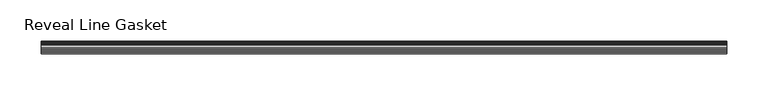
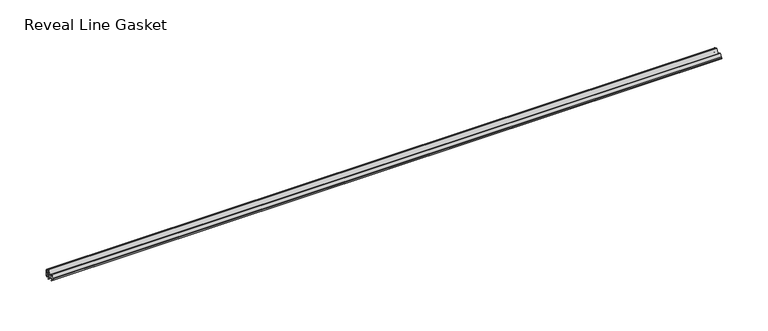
"""IFC4 building model written with IfcOpenShell, lengths in millimetres: proxy geometry, Accessories-Teknion-FHGR-AI_Healthcare-Reveal_Line_Gasket(Horizontal)-R2022 : Reveal Line Gasket."""

from ifc_helpers import new_model, si_unit, point, frame, frame_2d, origin, place, context, project, spatial, polyline, circle_curve, trimmed, segment, composite_curve, outline, extrude, source, transform, mapped, element, save


def reveal_line_gasket_ff10c470(model_context):
    return source(origin(), model_context, "Body", "SweptSolid", [
        extrude(outline(composite_curve([segment(polyline([(7.6326998, 1603.2), (7.6326998, 1597.2), (7.4091917, 1596.2445073), (6.8813059, 1595.3115316)]), True, "CONTINUOUS"), segment(trimmed(circle_curve(frame_2d((6.5243141, 1595.5135207)), 0.4101739), [point((6.8813059, 1595.3115316))], [point((6.1246704, 1595.6058653))], False, "CARTESIAN"), True, "CONTINUOUS"), segment(polyline([(6.1246704, 1595.6058653), (6.3626997, 1597.3020914), (6.3626997, 1599.3345473)]), True, "CONTINUOUS"), segment(trimmed(circle_curve(frame_2d((5.6959605, 1598.9180742)), 0.786124), [point((6.3626997, 1599.3345473))], [point((5.0926996, 1599.422125))], True, "CARTESIAN"), True, "CONTINUOUS"), segment(polyline([(5.0926996, 1599.422125), (0.7492996, 1599.422125), (3.7293824, 1594.2604705)]), True, "CONTINUOUS"), segment(trimmed(circle_curve(frame_2d((3.3132479, 1594.1950239)), 0.4212495), [point((3.7293824, 1594.2604705))], [point((3.0485022, 1593.8673642))], False, "CARTESIAN"), True, "CONTINUOUS"), segment(polyline([(3.0485022, 1593.8673642), (-0.5742594, 1599.422125), (-4.8262978, 1599.422125), (-3.1660374, 1596.5464703)]), True, "CONTINUOUS"), segment(trimmed(circle_curve(frame_2d((-3.5978728, 1596.4881145)), 0.4357605), [point((-3.1660374, 1596.5464703))], [point((-3.864328, 1596.1433119))], False, "CARTESIAN"), True, "CONTINUOUS"), segment(polyline([(-3.864328, 1596.1433119), (-6.1944059, 1599.422125), (-7.6326998, 1599.422125), (-7.6326998, 1600.977875), (-6.1944059, 1600.977875), (-3.864328, 1604.2566881)]), True, "CONTINUOUS"), segment(trimmed(circle_curve(frame_2d((-3.5978728, 1603.9118855)), 0.4357605), [point((-3.864328, 1604.2566881))], [point((-3.1660374, 1603.8535297))], False, "CARTESIAN"), True, "CONTINUOUS"), segment(polyline([(-3.1660374, 1603.8535297), (-4.8262978, 1600.977875), (-0.5742594, 1600.977875), (3.0485022, 1606.5326358)]), True, "CONTINUOUS"), segment(trimmed(circle_curve(frame_2d((3.3132479, 1606.2049761)), 0.4212495), [point((3.0485022, 1606.5326358))], [point((3.7293824, 1606.1395295))], False, "CARTESIAN"), True, "CONTINUOUS"), segment(polyline([(3.7293824, 1606.1395295), (0.7492996, 1600.977875), (5.0926996, 1600.977875)]), True, "CONTINUOUS"), segment(trimmed(circle_curve(frame_2d((5.6959605, 1601.4819258)), 0.786124), [point((5.0926996, 1600.977875))], [point((6.3626997, 1601.0654527))], True, "CARTESIAN"), True, "CONTINUOUS"), segment(polyline([(6.3626997, 1601.0654527), (6.3626997, 1603.0979086), (6.1246704, 1604.7941347)]), True, "CONTINUOUS"), segment(trimmed(circle_curve(frame_2d((6.5243141, 1604.8864793)), 0.4101739), [point((6.1246704, 1604.7941347))], [point((6.8813059, 1605.0884684))], False, "CARTESIAN"), True, "CONTINUOUS"), segment(polyline([(6.8813059, 1605.0884684), (7.4091917, 1604.1554927), (7.6326998, 1603.2)]), True, "CONTINUOUS")], self_intersect=False)), frame((-417.2204, 0.0, 0.0), z_axis=(1.0, 0.0, 0.0), x_axis=(0.0, 1.0, 0.0)), (0.0, 0.0, 1.0), 834.4408),
    ])


if __name__ == "__main__":
    model = new_model("IFC4")
    model_context = context("Model", 3, world=origin())
    ifc_project = project(units=[si_unit("LENGTHUNIT", "METRE", prefix="MILLI")], contexts=[model_context])
    site = spatial("IfcSite", under=ifc_project)
    building = spatial("IfcBuilding", under=site)
    placement = place(None, origin())
    reveal_line_gasket_shape = reveal_line_gasket_ff10c470(model_context)
    element("IfcBuildingElementProxy", 1, Name="Accessories-Teknion-FHGR-AI_Healthcare-Reveal_Line_Gasket(Horizontal)-R2022 : Reveal Line Gasket", ObjectType="Accessories-Teknion-FHGR-AI_Healthcare-Reveal_Line_Gasket(Horizontal)-R2022 : Reveal Line Gasket", at=placement, inside=building, context=model_context, shape_type="MappedRepresentation", body=[
        mapped(reveal_line_gasket_shape, transform((0.0, 0.0, 0.0), x_axis=(1.0, 0.0, 0.0), y_axis=(0.0, 1.0, 0.0), z_axis=(0.0, 0.0, 1.0))),
    ])
    save(model, "model.ifc")
